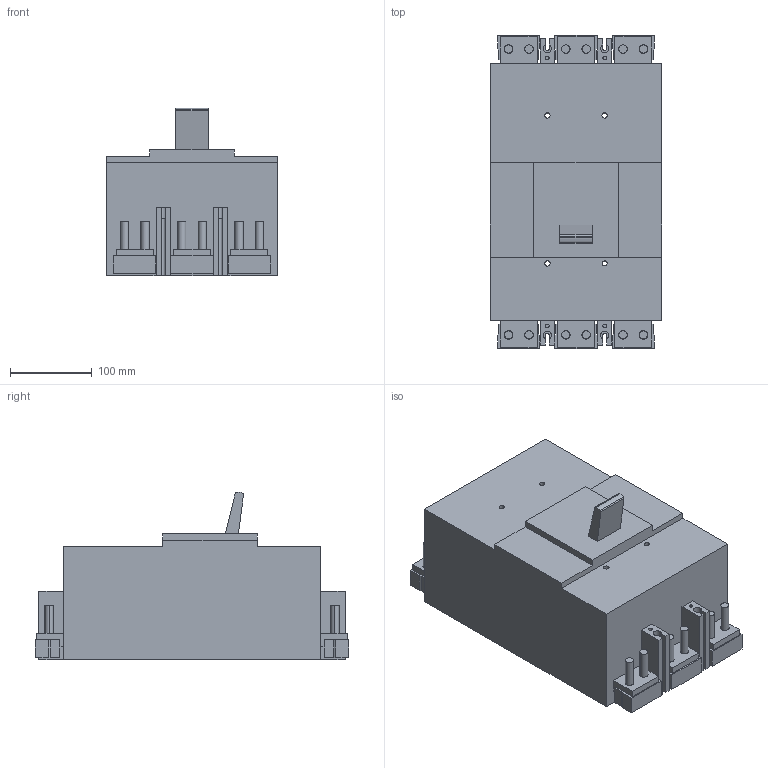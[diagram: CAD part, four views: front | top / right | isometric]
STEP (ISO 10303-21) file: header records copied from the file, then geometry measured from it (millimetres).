
FILE_DESCRIPTION (( 'STEP AP214' ), '1' );
FILE_NAME ('OptiMat D800, D1000, D1250, D1600.STEP', '2023-07-05T10:55:28', ( '' ), ( '' ), 'SwSTEP 2.0', 'SolidWorks 2018', '' );
FILE_SCHEMA (( 'AUTOMOTIVE_DESIGN' ));
Length unit declared in the file: millimetre
Products named in the file (1): OptiMat D800, D1000, D1250, D1600
Bounding box: 210 x 383 x 205.51 mm (x, y, z)
Volume: 9922898.4 mm3; surface area: 396543.3 mm2
Topology: 1 solids, 1 shells, 252 faces, 647 edges, 432 vertices
Faces by surface type: plane 168, cylinder 84
Entity records: 7701 total; most frequent: CARTESIAN_POINT 1344, DIRECTION 1313, ORIENTED_EDGE 1294, EDGE_CURVE 647, LINE 479, VECTOR 479, VERTEX_POINT 432, AXIS2_PLACEMENT_3D 417
